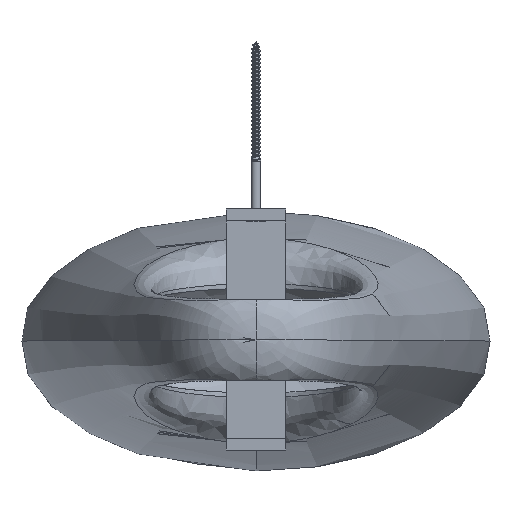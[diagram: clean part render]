
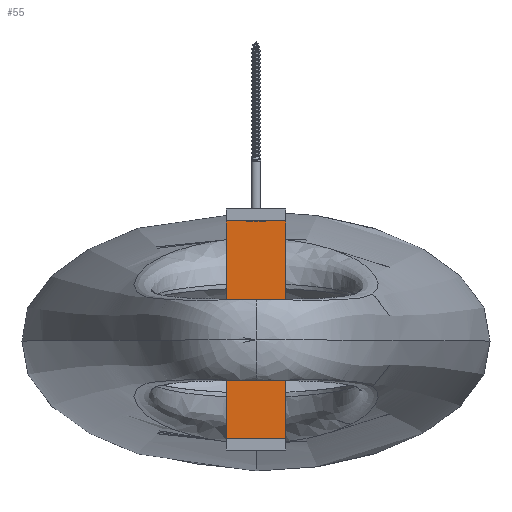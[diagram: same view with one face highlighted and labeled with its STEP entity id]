
A CAD part, top view. The second image highlights one B-rep face of the part: STEP entity #55.
In plain terms, the highlighted planar face has unit normal (0, 0, 1).
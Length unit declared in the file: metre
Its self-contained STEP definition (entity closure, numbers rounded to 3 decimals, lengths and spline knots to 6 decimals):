
#55=ADVANCED_FACE('',(#189),#2152,.T.);
#189=FACE_OUTER_BOUND('',#324,.T.);
#324=EDGE_LOOP('',(#489,#490,#491,#492));
#489=ORIENTED_EDGE('',*,*,#1207,.T.);
#490=ORIENTED_EDGE('',*,*,#1208,.T.);
#491=ORIENTED_EDGE('',*,*,#1209,.F.);
#492=ORIENTED_EDGE('',*,*,#1205,.F.);
#1205=EDGE_CURVE('',#1927,#1928,#1564,.T.);
#1207=EDGE_CURVE('',#1927,#1929,#1566,.T.);
#1208=EDGE_CURVE('',#1929,#1930,#1567,.T.);
#1209=EDGE_CURVE('',#1928,#1930,#1568,.T.);
#1564=B_SPLINE_CURVE_WITH_KNOTS('',1,(#2882,#2883),.UNSPECIFIED.,.F.,.F.,
(2,2),(0.,25.),.UNSPECIFIED.);
#1566=B_SPLINE_CURVE_WITH_KNOTS('',1,(#2886,#2887),.UNSPECIFIED.,.F.,.F.,
(2,2),(217.,309.),.UNSPECIFIED.);
#1567=B_SPLINE_CURVE_WITH_KNOTS('',1,(#2888,#2889),.UNSPECIFIED.,.F.,.F.,
(2,2),(0.,25.),.UNSPECIFIED.);
#1568=B_SPLINE_CURVE_WITH_KNOTS('',1,(#2890,#2891),.UNSPECIFIED.,.F.,.F.,
(2,2),(217.,309.),.UNSPECIFIED.);
#1927=VERTEX_POINT('',#2810);
#1928=VERTEX_POINT('',#2811);
#1929=VERTEX_POINT('',#2812);
#1930=VERTEX_POINT('',#2813);
#2152=PLANE('',#2538);
#2538=AXIS2_PLACEMENT_3D('',#2789,#2644,$);
#2644=DIRECTION('',(0.,0.,1.));
#2789=CARTESIAN_POINT('',(12.5,-97.,-37.));
#2810=CARTESIAN_POINT('',(12.5,-97.,-37.));
#2811=CARTESIAN_POINT('',(-12.5,-97.,-37.));
#2812=CARTESIAN_POINT('',(12.5,-5.,-37.));
#2813=CARTESIAN_POINT('',(-12.5,-5.,-37.));
#2882=CARTESIAN_POINT('',(12.5,-97.,-37.));
#2883=CARTESIAN_POINT('',(-12.5,-97.,-37.));
#2886=CARTESIAN_POINT('',(12.5,-97.,-37.));
#2887=CARTESIAN_POINT('',(12.5,-5.,-37.));
#2888=CARTESIAN_POINT('',(12.5,-5.,-37.));
#2889=CARTESIAN_POINT('',(-12.5,-5.,-37.));
#2890=CARTESIAN_POINT('',(-12.5,-97.,-37.));
#2891=CARTESIAN_POINT('',(-12.5,-5.,-37.));
